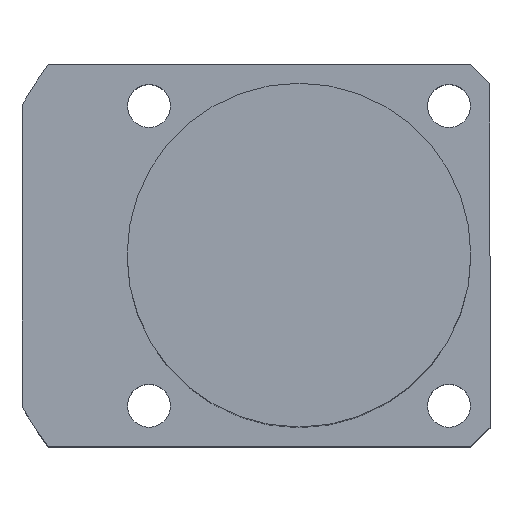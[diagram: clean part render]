
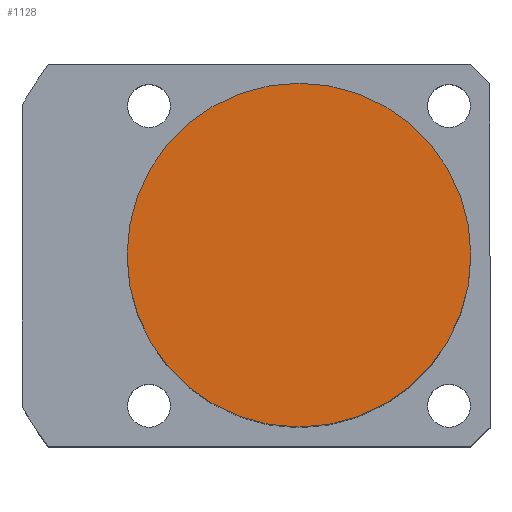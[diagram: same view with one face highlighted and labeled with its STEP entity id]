
A CAD part, top view. The second image highlights one B-rep face of the part: STEP entity #1128.
In plain terms, the highlighted planar face has unit normal (0, 0, 1).
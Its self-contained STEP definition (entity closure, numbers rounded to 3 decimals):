
#88 = FACE_OUTER_BOUND ( 'NONE', #1215, .T. ) ;
#137 = VERTEX_POINT ( 'NONE', #1130 ) ;
#276 = ORIENTED_EDGE ( 'NONE', *, *, #596, .T. ) ;
#378 = CIRCLE ( 'NONE', #2332, 18. ) ;
#596 = EDGE_CURVE ( 'NONE', #137, #3545, #1350, .T. ) ;
#597 = PLANE ( 'NONE',  #1001 ) ;
#655 = CARTESIAN_POINT ( 'NONE',  ( -18., 0., 53.5 ) ) ;
#778 = DIRECTION ( 'NONE',  ( 1., 0., 0. ) ) ;
#974 = EDGE_CURVE ( 'NONE', #3545, #137, #378, .T. ) ;
#1001 = AXIS2_PLACEMENT_3D ( 'NONE', #1540, #3696, #1848 ) ;
#1044 = DIRECTION ( 'NONE',  ( 0., 0., 1. ) ) ;
#1128 = ADVANCED_FACE ( 'NONE', ( #88 ), #597, .T. ) ;
#1130 = CARTESIAN_POINT ( 'NONE',  ( 18., 0., 53.5 ) ) ;
#1177 = DIRECTION ( 'NONE',  ( 1., 0., 0. ) ) ;
#1215 = EDGE_LOOP ( 'NONE', ( #1270, #276 ) ) ;
#1270 = ORIENTED_EDGE ( 'NONE', *, *, #974, .T. ) ;
#1350 = CIRCLE ( 'NONE', #1495, 18. ) ;
#1353 = CARTESIAN_POINT ( 'NONE',  ( 0., 0., 53.5 ) ) ;
#1495 = AXIS2_PLACEMENT_3D ( 'NONE', #1353, #1044, #778 ) ;
#1540 = CARTESIAN_POINT ( 'NONE',  ( 0., 0., 53.5 ) ) ;
#1783 = DIRECTION ( 'NONE',  ( 0., 0., 1. ) ) ;
#1848 = DIRECTION ( 'NONE',  ( 1., 0., 0. ) ) ;
#2101 = CARTESIAN_POINT ( 'NONE',  ( 0., 0., 53.5 ) ) ;
#2332 = AXIS2_PLACEMENT_3D ( 'NONE', #2101, #1783, #1177 ) ;
#3545 = VERTEX_POINT ( 'NONE', #655 ) ;
#3696 = DIRECTION ( 'NONE',  ( 0., 0., 1. ) ) ;
